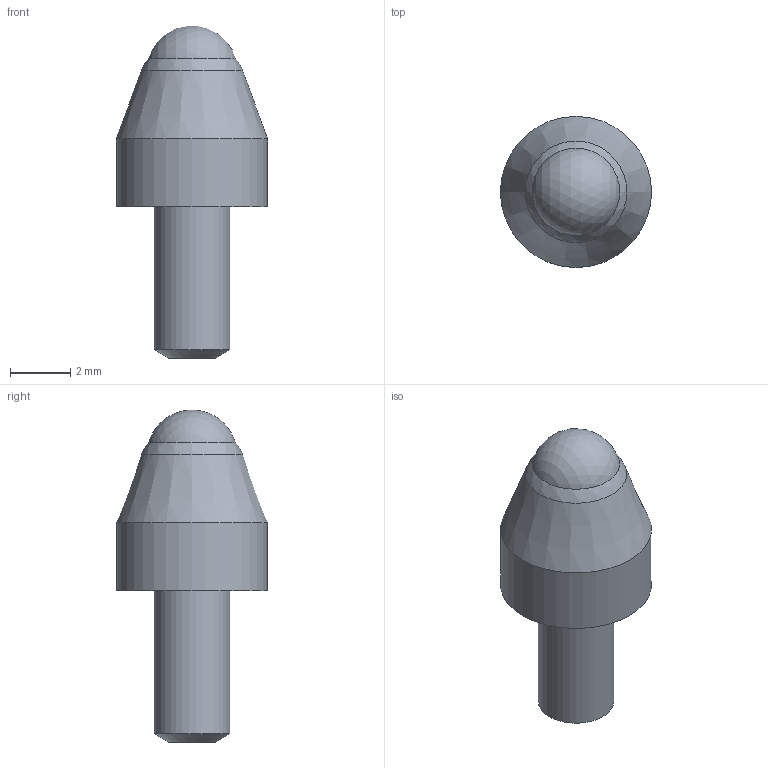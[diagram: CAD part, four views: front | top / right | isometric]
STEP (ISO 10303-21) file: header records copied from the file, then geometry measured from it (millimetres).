
FILE_DESCRIPTION(/* description */ (''),/* implementation_level */ '2;1');
FILE_NAME(/* name */ 'C:\Local Work Area\Progetti\AP\CALIBRI\44X.XX PUNTALI\440.20.stp',/* time_stamp */ '2022-01-11T12:08:01+01:00',/* author */ ('CAD5'),/* organization */ (''),/* preprocessor_version */ 'ST-DEVELOPER v18.1',/* originating_system */ 'Autodesk Inventor 2021',/* authorisation */ '');
FILE_SCHEMA (('AUTOMOTIVE_DESIGN { 1 0 10303 214 3 1 1 }'));
Length unit declared in the file: millimetre
Products named in the file (4): 440.20; 440.21; SFERA AISI420C D3 GR100; UNI 5929 - M2.5 x 8
Assembly tree (3 placements, depth 2):
  440.20
    440.21
    SFERA AISI420C D3 GR100
    UNI 5929 - M2.5 x 8
Bounding box: 5 x 5 x 10.99 mm (x, y, z)
Volume: 102.8 mm3; surface area: 226.7 mm2
Topology: 3 solids, 3 shells, 27 faces, 59 edges, 34 vertices
Faces by surface type: plane 14, cone 6, cylinder 4, sphere 2, bspline 1
Full cylindrical faces by diameter (mm): 2.013 x1, 2.5 x1, 3 x1, 5 x1
Entity records: 909 total; most frequent: CARTESIAN_POINT 149, DIRECTION 148, ORIENTED_EDGE 110, AXIS2_PLACEMENT_3D 60, EDGE_CURVE 55, VERTEX_POINT 34, EDGE_LOOP 29, LINE 28
